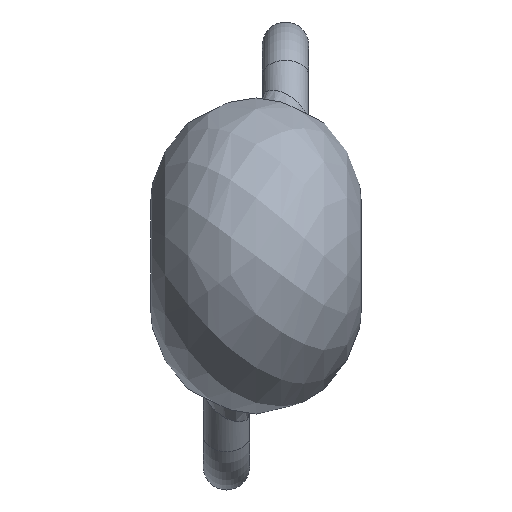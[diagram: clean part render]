
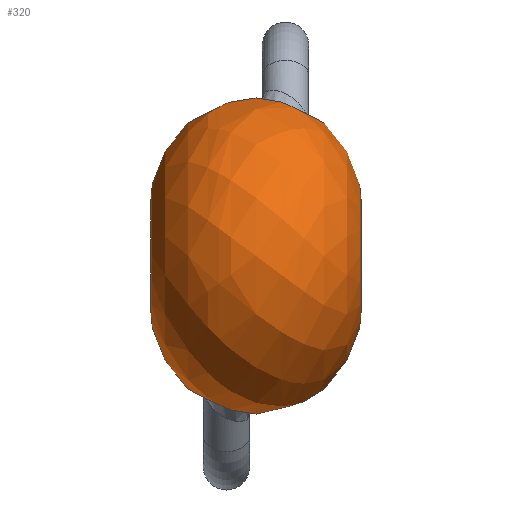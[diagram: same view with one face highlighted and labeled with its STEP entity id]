
A CAD part, left-side view. The second image highlights one B-rep face of the part: STEP entity #320.
In plain terms, the highlighted free-form (B-spline) face has degree [2, 2] with [7, 9] control points.
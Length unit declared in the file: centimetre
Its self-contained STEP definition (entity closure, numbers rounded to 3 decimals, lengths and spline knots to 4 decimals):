
#149=CARTESIAN_POINT('',(0.2094,-0.0205,-0.3021));
#150=VERTEX_POINT('',#149);
#180=CARTESIAN_POINT('',(0.2093,-0.0206,-0.3021));
#181=CARTESIAN_POINT('',(0.179,-0.0188,-0.3237));
#182=CARTESIAN_POINT('',(0.134,0.0084,-0.3524));
#183=CARTESIAN_POINT('',(0.104,0.0717,-0.36));
#184=CARTESIAN_POINT('',(0.0988,0.1219,-0.3494));
#185=CARTESIAN_POINT('',(0.1117,0.166,-0.3242));
#186=CARTESIAN_POINT('',(0.1421,0.1958,-0.2893));
#187=CARTESIAN_POINT('',(0.1875,0.2044,-0.2533));
#188=CARTESIAN_POINT('',(0.2363,0.1897,-0.2262));
#189=CARTESIAN_POINT('',(0.2765,0.1568,-0.2111));
#190=CARTESIAN_POINT('',(0.3107,0.0961,-0.2066));
#191=CARTESIAN_POINT('',(0.3021,0.025,-0.2282));
#192=CARTESIAN_POINT('',(0.2604,-0.0105,-0.2637));
#193=CARTESIAN_POINT('',(0.2321,-0.02,-0.2856));
#194=CARTESIAN_POINT('',(0.2169,-0.0211,-0.2967));
#195=CARTESIAN_POINT('',(0.2093,-0.0206,-0.3021));
#196=B_SPLINE_CURVE_WITH_KNOTS('',3,(#180,#181,#182,#183,#184,#185,#186,#187,#188,#189,#190,#191,#192,#193,#194,#195),.UNSPECIFIED.,.T.,.U.,(4,1,1,1,1,1,1,1,1,1,1,1,1,4),(0.0,0.0507,0.076,0.1014,0.1267,0.1521,0.1774,0.2028,0.2281,0.2534,0.3041,0.3295,0.3422,0.3548),.UNSPECIFIED.);
#197=EDGE_CURVE('',#150,#150,#196,.T.);
#202=CARTESIAN_POINT('',(0.,-0.1765,0.));
#203=CARTESIAN_POINT('',(-0.1817,-0.2814,0.));
#204=CARTESIAN_POINT('',(-0.3165,-0.1207,0.));
#205=CARTESIAN_POINT('',(-0.4514,0.04,0.));
#206=CARTESIAN_POINT('',(-0.3165,0.2007,0.));
#207=CARTESIAN_POINT('',(-0.1817,0.3614,0.));
#208=CARTESIAN_POINT('',(0.,0.2565,0.));
#209=CARTESIAN_POINT('',(0.,-0.1765,0.));
#210=CARTESIAN_POINT('',(-0.1817,-0.2814,-0.1817));
#211=CARTESIAN_POINT('',(-0.3165,-0.1207,-0.3165));
#212=CARTESIAN_POINT('',(-0.4514,0.04,-0.4514));
#213=CARTESIAN_POINT('',(-0.3165,0.2007,-0.3165));
#214=CARTESIAN_POINT('',(-0.1817,0.3614,-0.1817));
#215=CARTESIAN_POINT('',(0.,0.2565,0.));
#216=CARTESIAN_POINT('',(0.,-0.1765,0.));
#217=CARTESIAN_POINT('',(0.,-0.2814,-0.1817));
#218=CARTESIAN_POINT('',(0.,-0.1207,-0.3165));
#219=CARTESIAN_POINT('',(0.,0.04,-0.4514));
#220=CARTESIAN_POINT('',(0.,0.2007,-0.3165));
#221=CARTESIAN_POINT('',(0.,0.3614,-0.1817));
#222=CARTESIAN_POINT('',(0.,0.2565,0.));
#223=CARTESIAN_POINT('',(0.,-0.1765,0.));
#224=CARTESIAN_POINT('',(0.1817,-0.2814,-0.1817));
#225=CARTESIAN_POINT('',(0.3165,-0.1207,-0.3165));
#226=CARTESIAN_POINT('',(0.4514,0.04,-0.4514));
#227=CARTESIAN_POINT('',(0.3165,0.2007,-0.3165));
#228=CARTESIAN_POINT('',(0.1817,0.3614,-0.1817));
#229=CARTESIAN_POINT('',(0.,0.2565,0.));
#230=CARTESIAN_POINT('',(0.,-0.1765,0.));
#231=CARTESIAN_POINT('',(0.1817,-0.2814,0.));
#232=CARTESIAN_POINT('',(0.3165,-0.1207,0.));
#233=CARTESIAN_POINT('',(0.4514,0.04,0.));
#234=CARTESIAN_POINT('',(0.3165,0.2007,0.));
#235=CARTESIAN_POINT('',(0.1817,0.3614,0.));
#236=CARTESIAN_POINT('',(0.,0.2565,0.));
#237=CARTESIAN_POINT('',(0.,-0.1765,0.));
#238=CARTESIAN_POINT('',(0.1817,-0.2814,0.1817));
#239=CARTESIAN_POINT('',(0.3165,-0.1207,0.3165));
#240=CARTESIAN_POINT('',(0.4514,0.04,0.4514));
#241=CARTESIAN_POINT('',(0.3165,0.2007,0.3165));
#242=CARTESIAN_POINT('',(0.1817,0.3614,0.1817));
#243=CARTESIAN_POINT('',(0.,0.2565,0.));
#244=CARTESIAN_POINT('',(0.,-0.1765,0.));
#245=CARTESIAN_POINT('',(0.,-0.2814,0.1817));
#246=CARTESIAN_POINT('',(0.,-0.1207,0.3165));
#247=CARTESIAN_POINT('',(0.,0.04,0.4514));
#248=CARTESIAN_POINT('',(0.,0.2007,0.3165));
#249=CARTESIAN_POINT('',(0.,0.3614,0.1817));
#250=CARTESIAN_POINT('',(0.,0.2565,0.));
#251=CARTESIAN_POINT('',(0.,-0.1765,0.));
#252=CARTESIAN_POINT('',(-0.1817,-0.2814,0.1817));
#253=CARTESIAN_POINT('',(-0.3165,-0.1207,0.3165));
#254=CARTESIAN_POINT('',(-0.4514,0.04,0.4514));
#255=CARTESIAN_POINT('',(-0.3165,0.2007,0.3165));
#256=CARTESIAN_POINT('',(-0.1817,0.3614,0.1817));
#257=CARTESIAN_POINT('',(0.,0.2565,0.));
#258=CARTESIAN_POINT('',(0.,-0.1765,0.));
#259=CARTESIAN_POINT('',(-0.1817,-0.2814,0.));
#260=CARTESIAN_POINT('',(-0.3165,-0.1207,0.));
#261=CARTESIAN_POINT('',(-0.4514,0.04,0.));
#262=CARTESIAN_POINT('',(-0.3165,0.2007,0.));
#263=CARTESIAN_POINT('',(-0.1817,0.3614,0.));
#264=CARTESIAN_POINT('',(0.,0.2565,0.));
#272=(BOUNDED_SURFACE()B_SPLINE_SURFACE(2,2,((#202,#209,#216,#223,#230,#237,#244,#251,#258),(#203,#210,#217,#224,#231,#238,#245,#252,#259),(#204,#211,#218,#225,#232,#239,#246,#253,#260),(#205,#212,#219,#226,#233,#240,#247,#254,#261),(#206,#213,#220,#227,#234,#241,#248,#255,#262),(#207,#214,#221,#228,#235,#242,#249,#256,#263),(#208,#215,#222,#229,#236,#243,#250,#257,#264)),.UNSPECIFIED.,.F.,.T.,.U.)B_SPLINE_SURFACE_WITH_KNOTS((3,2,2,3),(3,2,2,2,3),(-2.0944,-0.6981,0.6981,2.0944),(0.0,1.5708,3.1416,4.7124,6.2832),.UNSPECIFIED.)GEOMETRIC_REPRESENTATION_ITEM()RATIONAL_B_SPLINE_SURFACE(((1.0,0.707,1.0,0.707,1.0,0.707,1.0,0.707,1.0),(0.766,0.542,0.766,0.542,0.766,0.542,0.766,0.542,0.766),(1.0,0.707,1.0,0.707,1.0,0.707,1.0,0.707,1.0),(0.766,0.542,0.766,0.542,0.766,0.542,0.766,0.542,0.766),(1.0,0.707,1.0,0.707,1.0,0.707,1.0,0.707,1.0),(0.766,0.542,0.766,0.542,0.766,0.542,0.766,0.542,0.766),(1.0,0.707,1.0,0.707,1.0,0.707,1.0,0.707,1.0)))REPRESENTATION_ITEM('')SURFACE());
#273=CARTESIAN_POINT('',(0.1782,-0.1207,0.2616));
#274=VERTEX_POINT('',#273);
#275=CARTESIAN_POINT('',(0.1782,-0.1207,0.2616));
#276=CARTESIAN_POINT('',(0.1935,-0.1213,0.2506));
#277=CARTESIAN_POINT('',(0.2264,-0.1145,0.2309));
#278=CARTESIAN_POINT('',(0.2691,-0.085,0.2133));
#279=CARTESIAN_POINT('',(0.298,-0.0416,0.2076));
#280=CARTESIAN_POINT('',(0.3076,0.0088,0.2142));
#281=CARTESIAN_POINT('',(0.2952,0.0564,0.2331));
#282=CARTESIAN_POINT('',(0.2633,0.0909,0.2618));
#283=CARTESIAN_POINT('',(0.2195,0.1044,0.2954));
#284=CARTESIAN_POINT('',(0.1573,0.092,0.3384));
#285=CARTESIAN_POINT('',(0.0983,0.0217,0.3691));
#286=CARTESIAN_POINT('',(0.0985,-0.0667,0.3418));
#287=CARTESIAN_POINT('',(0.1343,-0.111,0.2971));
#288=CARTESIAN_POINT('',(0.1628,-0.1201,0.2727));
#289=CARTESIAN_POINT('',(0.1782,-0.1207,0.2616));
#290=B_SPLINE_CURVE_WITH_KNOTS('',3,(#275,#276,#277,#278,#279,#280,#281,#282,#283,#284,#285,#286,#287,#288,#289),.UNSPECIFIED.,.T.,.U.,(4,1,1,1,1,1,1,1,1,1,1,1,4),(0.0,0.0253,0.0507,0.076,0.1014,0.1267,0.152,0.1774,0.2027,0.2534,0.3041,0.3294,0.3548),.UNSPECIFIED.);
#291=EDGE_CURVE('',#274,#274,#290,.T.);
#292=ORIENTED_EDGE('',*,*,#291,.F.);
#293=EDGE_LOOP('',(#292));
#294=FACE_OUTER_BOUND('',#293,.T.);
#295=CARTESIAN_POINT('',(0.125,-0.21,0.));
#296=VERTEX_POINT('',#295);
#297=CARTESIAN_POINT('',(0.0,-0.21,0.0));
#298=DIRECTION('',(0.0,1.0,0.0));
#299=DIRECTION('',(-1.0,0.0,0.0));
#300=AXIS2_PLACEMENT_3D('',#297,#298,#299);
#301=CIRCLE('',#300,0.125);
#302=EDGE_CURVE('',#296,#296,#301,.T.);
#303=ORIENTED_EDGE('',*,*,#302,.T.);
#304=EDGE_LOOP('',(#303));
#305=FACE_BOUND('',#304,.T.);
#306=CARTESIAN_POINT('',(0.125,0.29,0.));
#307=VERTEX_POINT('',#306);
#308=CARTESIAN_POINT('',(0.0,0.29,0.0));
#309=DIRECTION('',(0.0,-1.0,0.0));
#310=DIRECTION('',(-1.0,0.0,0.0));
#311=AXIS2_PLACEMENT_3D('',#308,#309,#310);
#312=CIRCLE('',#311,0.125);
#313=EDGE_CURVE('',#307,#307,#312,.T.);
#314=ORIENTED_EDGE('',*,*,#313,.T.);
#315=EDGE_LOOP('',(#314));
#316=FACE_BOUND('',#315,.T.);
#317=ORIENTED_EDGE('',*,*,#197,.F.);
#318=EDGE_LOOP('',(#317));
#319=FACE_BOUND('',#318,.T.);
#320=ADVANCED_FACE('',(#294,#305,#316,#319),#272,.T.);
